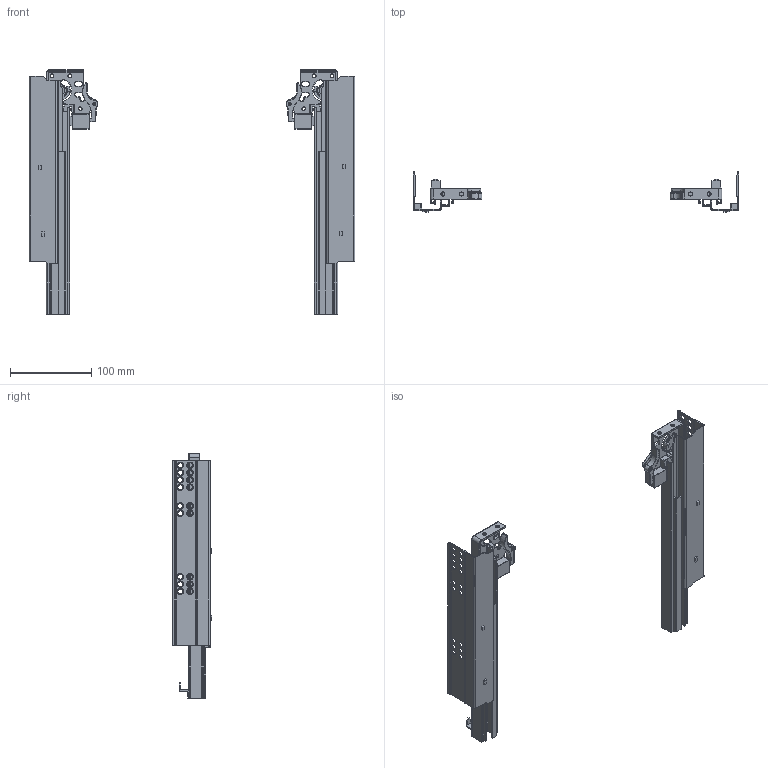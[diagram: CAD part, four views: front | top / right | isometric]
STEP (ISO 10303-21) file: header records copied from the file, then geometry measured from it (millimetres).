
FILE_DESCRIPTION(/* description */ (''),/* implementation_level */ '2;1');
FILE_NAME(/* name */ 'D:\$Workingspace\Designs\Katalog\Cadsoft\GTV Prowadnice\Prowadnice GTV_bryły 3D\PB-0FPO-300.stp',/* time_stamp */ '2016-11-21T11:51:24+01:00',/* author */ ('tomaszw'),/* organization */ (''),/* preprocessor_version */ 'ST-DEVELOPER v16.1',/* originating_system */ 'Autodesk Inventor 2016',/* authorisation */ '');
FILE_SCHEMA (('AUTOMOTIVE_DESIGN { 1 0 10303 214 3 1 1 }'));
Length unit declared in the file: millimetre
Products named in the file (9): PB-0FPO-CL-300; PB-0FPO-CR-300; PB-0FPO-DL-300; PB-0FPO-DR-300; PB-0FPO-DWL-300; PB-0FPO-DWR-300; PB-0FPO-SL; PB-0FPO-SR; PB-0FPO
Assembly tree (8 placements, depth 2):
  PB-0FPO
    PB-0FPO-CL-300
    PB-0FPO-CR-300
    PB-0FPO-DL-300
    PB-0FPO-DR-300
    PB-0FPO-DWL-300
    PB-0FPO-DWR-300
    PB-0FPO-SL
    PB-0FPO-SR
Bounding box: 400 x 48.8 x 300 mm (x, y, z)
Volume: 202523.6 mm3; surface area: 239115.2 mm2
Topology: 16 solids, 16 shells, 1860 faces, 4284 edges, 2462 vertices
Faces by surface type: cylinder 780, plane 444, torus 366, sphere 198, cone 36, bspline 36
Full cylindrical faces by diameter (mm): 3 x2, 4 x6, 4.5 x6, 5 x2, 6 x36, 7.889 x2
Entity records: 55705 total; most frequent: CARTESIAN_POINT 11059, DIRECTION 9862, ORIENTED_EDGE 8236, EDGE_CURVE 4118, AXIS2_PLACEMENT_3D 3971, VERTEX_POINT 2420, CIRCLE 2118, EDGE_LOOP 2110
